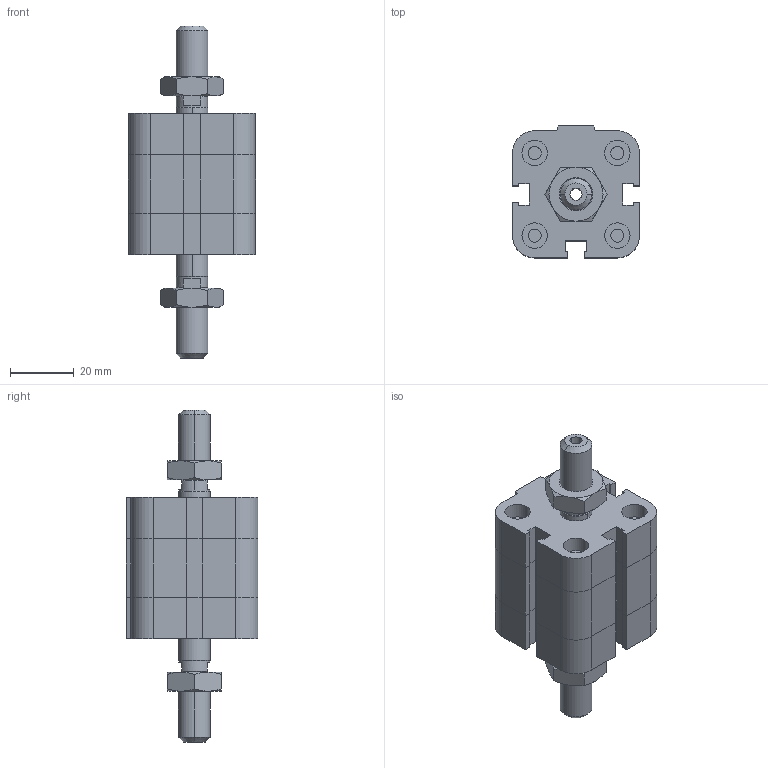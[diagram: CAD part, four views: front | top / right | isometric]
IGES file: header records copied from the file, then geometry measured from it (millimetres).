
Global section: file name: No Iges File Name specified; native system: Autodesk Inventor 2009; preprocessor: AutoDesk Inventor Iges Exporter R2009; author: maffial1; date: 20090420.142649; units: millimetre
Bounding box: 40 x 41.5 x 104.5 mm (x, y, z)
Volume: 67520.9 mm3; surface area: 21756.7 mm2
Topology: 4 solids, 4 shells, 262 faces, 580 edges, 346 vertices
Faces by surface type: plane 129, bspline 53, cone 38, cylinder 22, revolution 20
